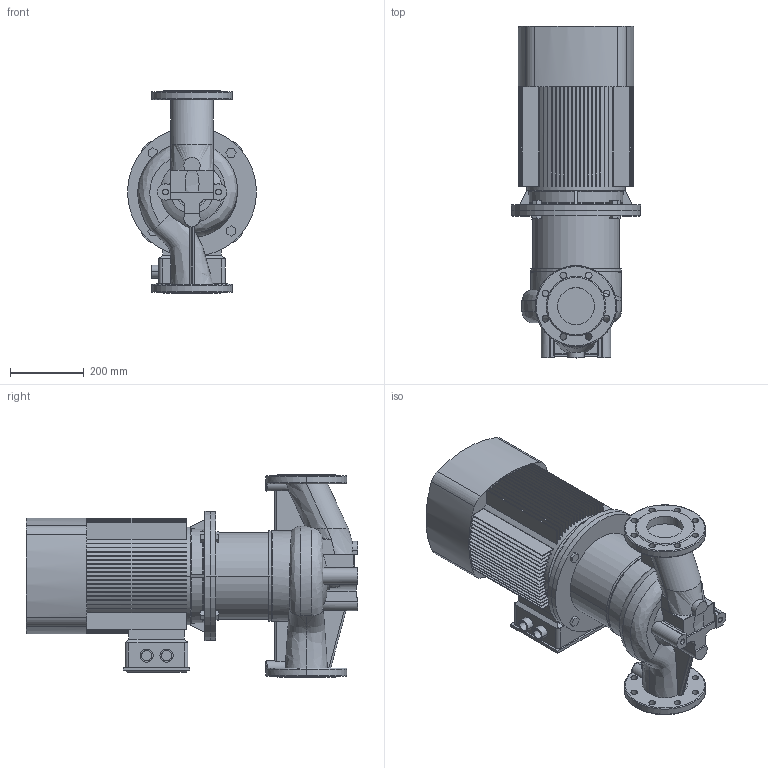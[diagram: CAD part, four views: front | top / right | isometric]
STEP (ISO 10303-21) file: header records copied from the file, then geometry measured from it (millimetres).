
FILE_DESCRIPTION (( 'STEP AP203' ), '1' );
FILE_NAME ('TD100-27_2.STEP', '2022-05-02T18:57:42', ( '' ), ( '' ), 'SwSTEP 2.0', 'SolidWorks 2019', '' );
FILE_SCHEMA (( 'CONFIG_CONTROL_DESIGN' ));
Length unit declared in the file: millimetre
Products named in the file (4): Pr_ch 100_TD100-27_2; TD100-27_2; ED_B5_YE2-160M1-2 (11); Fon_100_TD100-27_2
Assembly tree (3 placements, depth 2):
  TD100-27_2
    Pr_ch 100_TD100-27_2
    Fon_100_TD100-27_2
    ED_B5_YE2-160M1-2 (11)
Bounding box: 350 x 900 x 550 mm (x, y, z)
Volume: 52593315.3 mm3; surface area: 2810723.6 mm2
Topology: 13 solids, 15 shells, 741 faces, 2041 edges, 1344 vertices
Faces by surface type: plane 506, cylinder 160, torus 31, bspline 25, cone 17, sphere 2
Entity records: 30964 total; most frequent: CARTESIAN_POINT 11420, ORIENTED_EDGE 4078, DIRECTION 3984, EDGE_CURVE 2039, AXIS2_PLACEMENT_3D 1399, VERTEX_POINT 1344, VECTOR 1186, LINE 1186
